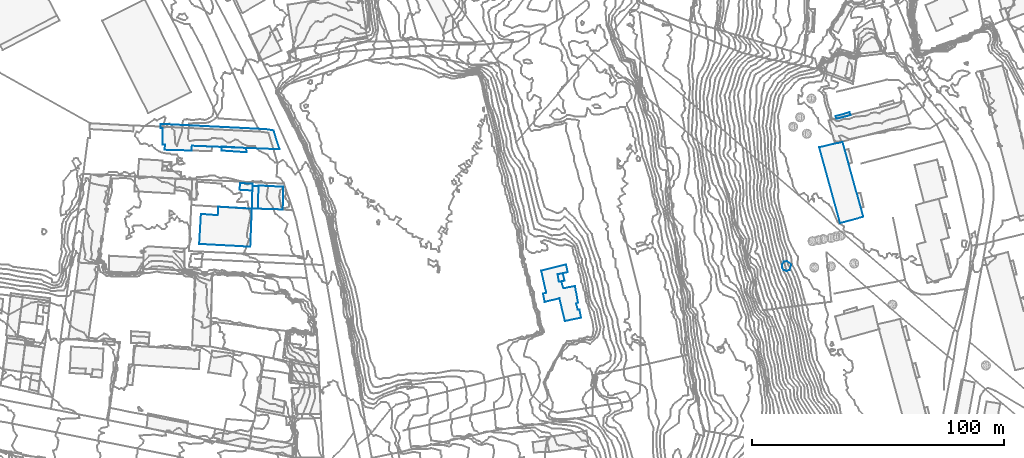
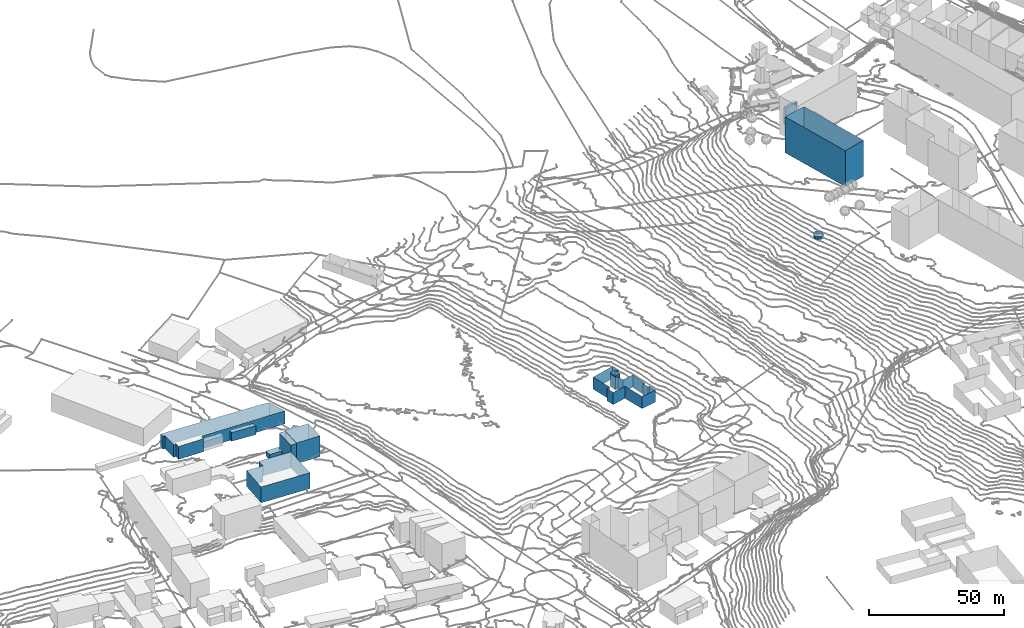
# Not in any storey, part 65 of 419: 11 walls.
"""IFC2X3 model written with IfcOpenShell, lengths in metres."""

from ifc_helpers import new_model, si_unit, frame, origin_with_axes, place, context, subcontext, project, faceted_brep, element, save


model = new_model("IFC2X3")

# Units and contexts
model_context = context("Model", 3, precision=1e-05, world=origin_with_axes())
body_context = subcontext(model_context, "Body", "Model", "MODEL_VIEW")
ifc_project = project(units=[si_unit("AREAUNIT", "SQUARE_METRE"), si_unit("LENGTHUNIT", "METRE")], contexts=[model_context])

# Walls
wall_1_placement = place(None, frame((592.7920204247, 944.9976909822, 50.1320001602), z_axis=(0.0, 0.0, 1.0), x_axis=(1.0, 0.0, 0.0)))
element("IfcWall", 1, at=wall_1_placement, Name="Mur 0", context=body_context, shape_type="Brep", body=[
    faceted_brep([(2.7000000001, 8.9000000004, 9.3679998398), (2.4, 0.0, 9.3679998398), (2.7000000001, 8.9000000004, 0.0), (2.4, 0.0, 0.0), (0.3, 9.1000000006, 9.3679998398), (0.3, 9.1000000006, 0.0), (0.0, 0.0, 9.3679998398), (0.0, 0.0, 0.0)], [[[0, 1, 2]], [[2, 1, 3]], [[4, 0, 5]], [[5, 0, 2]], [[1, 6, 3]], [[3, 6, 7]], [[6, 4, 7]], [[7, 4, 5]]]),
])
wall_2_placement = place(None, frame((818.1920204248, 969.3976909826, 98.0246006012), z_axis=(0.0, 0.0, 1.0), x_axis=(1.0, 0.0, 0.0)))
element("IfcWall", 2, at=wall_2_placement, Name="Mur 0", context=body_context, shape_type="Brep", body=[
    faceted_brep([(0.0, 0.0, 16.2753993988), (6.3, 1.5, 16.2753993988), (0.0, 0.0, 0.0), (6.3, 1.5, 0.0), (8.3, -30.0999999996, 16.2753993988), (8.3, -30.0999999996, 0.0), (17.5, -27.5999999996, 16.2753993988), (17.5, -27.5999999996, 0.0), (9.3, 2.0999999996, 16.2753993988), (9.3, 2.0999999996, 0.0)], [[[0, 1, 2]], [[2, 1, 3]], [[4, 0, 5]], [[5, 0, 2]], [[6, 4, 7]], [[7, 4, 5]], [[1, 8, 3]], [[3, 8, 9]], [[8, 6, 9]], [[9, 6, 7]]]),
])
wall_3_placement = place(None, frame((595.1920204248, 944.9976909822, 50.2927998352), z_axis=(0.0, 0.0, 1.0), x_axis=(1.0, 0.0, 0.0)))
element("IfcWall", 3, at=wall_3_placement, Name="Mur 0", context=body_context, shape_type="Brep", body=[
    faceted_brep([(10.1, 8.7000000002, 9.4072001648), (9.9, -0.2999999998, 9.4072001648), (10.1, 8.7000000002, 0.0), (9.9, -0.2999999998, 0.0), (0.3, 9.2000000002, 9.4072001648), (0.3, 9.2000000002, 0.0), (0.0, 0.0, 9.4072001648), (0.0, 0.0, 0.0)], [[[0, 1, 2]], [[2, 1, 3]], [[4, 0, 5]], [[5, 0, 2]], [[1, 6, 3]], [[3, 6, 7]], [[6, 4, 7]], [[7, 4, 5]]]),
])
wall_4_placement = place(None, frame((580.7920204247, 968.0976909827, 51.5150000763), z_axis=(0.0, 0.0, 1.0), x_axis=(1.0, 0.0, 0.0)))
element("IfcWall", 4, at=wall_4_placement, Name="Mur 0", context=body_context, shape_type="Brep", body=[
    faceted_brep([(0.0, 0.0, 3.9849999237), (0.0, 1.5999999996, 3.9849999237), (0.0, 0.0, 0.0), (0.0, 1.5999999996, 0.0), (9.9, -0.7000000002, 3.9849999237), (9.9, -0.7000000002, 0.0), (9.8, 1.0, 3.9849999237), (9.8, 1.0, 0.0)], [[[0, 1, 2]], [[2, 1, 3]], [[4, 0, 5]], [[5, 0, 2]], [[1, 6, 3]], [[3, 6, 7]], [[6, 4, 7]], [[7, 4, 5]]]),
])
wall_5_placement = place(None, frame((824.6920204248, 981.7976909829, 101.1435016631), z_axis=(0.0, 0.0, 1.0), x_axis=(1.0, 0.0, 0.0)))
element("IfcWall", 5, at=wall_5_placement, Name="Mur 0", context=body_context, shape_type="Brep", body=[
    faceted_brep([(5.9, 0.3999999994, 7.8564983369), (0.4, -1.1000000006, 7.8564983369), (5.9, 0.3999999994, 0.0), (0.4, -1.1000000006, 0.0), (5.6, 1.5, 7.8564983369), (5.6, 1.5, 0.0), (0.0, 0.0, 7.8564983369), (0.0, 0.0, 0.0)], [[[0, 1, 2]], [[2, 1, 3]], [[4, 0, 5]], [[5, 0, 2]], [[1, 6, 3]], [[3, 6, 7]], [[6, 4, 7]], [[7, 4, 5]]]),
])
wall_6_placement = place(None, frame((803.3920204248, 921.6976909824, 93.1024017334), z_axis=(0.0, 0.0, 1.0), x_axis=(1.0, 0.0, 0.0)))
element("IfcWall", 6, at=wall_6_placement, Name="Mur 0", context=body_context, shape_type="Brep", body=[
    faceted_brep([(3.7, 1.1000000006, 1.5975982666), (3.0, -1.0, 1.5975982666), (3.7, 1.1000000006, 0.0), (3.0, -1.0, 0.0), (1.8999999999, 2.5, 1.5975982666), (1.8999999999, 2.5, 0.0), (0.7, 2.2000000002, 1.5975982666), (0.7, 2.2000000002, 0.0), (0.0, 1.2000000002, 1.5975982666), (0.0, 1.2000000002, 0.0), (0.0, 0.0, 1.5975982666), (0.0, 0.0, 0.0), (0.7, -1.0, 1.5975982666), (0.7, -1.0, 0.0), (1.7999999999, -1.3999999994, 1.5975982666), (1.7999999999, -1.3999999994, 0.0)], [[[0, 1, 2]], [[2, 1, 3]], [[4, 0, 5]], [[5, 0, 2]], [[6, 4, 7]], [[7, 4, 5]], [[8, 6, 9]], [[9, 6, 7]], [[10, 8, 11]], [[11, 8, 9]], [[12, 10, 13]], [[13, 10, 11]], [[1, 14, 3]], [[3, 14, 15]], [[14, 12, 15]], [[15, 12, 13]]]),
])
wall_7_placement = place(None, frame((587.9920204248, 952.4976909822, 50.0516007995), z_axis=(0.0, 0.0, 1.0), x_axis=(1.0, 0.0, 0.0)))
element("IfcWall", 7, at=wall_7_placement, Name="Mur 0", context=body_context, shape_type="Brep", body=[
    faceted_brep([(5.2, 2.4000000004, 2.4483992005), (5.1, 1.6000000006, 2.4483992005), (5.2, 2.4000000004, 0.0), (5.1, 1.6000000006, 0.0), (0.1, 2.7000000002, 2.4483992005), (0.1, 2.7000000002, 0.0), (0.0, 0.0, 2.4483992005), (0.0, 0.0, 0.0), (5.1, -0.2999999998, 2.4483992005), (5.1, -0.2999999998, 0.0)], [[[0, 1, 2]], [[2, 1, 3]], [[4, 0, 5]], [[5, 0, 2]], [[6, 4, 7]], [[7, 4, 5]], [[1, 8, 3]], [[3, 8, 9]], [[8, 6, 9]], [[9, 6, 7]]]),
])
wall_8_placement = place(None, frame((707.7920204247, 920.3976909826, 59.5370002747), z_axis=(0.0, 0.0, 1.0), x_axis=(1.0, 0.0, 0.0)))
element("IfcWall", 8, at=wall_8_placement, Name="Mur 0", context=body_context, shape_type="Brep", body=[
    faceted_brep([(0.0, 0.0, 5.4629997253), (9.8, 2.5, 5.4629997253), (0.0, 0.0, 0.0), (9.8, 2.5, 0.0), (2.0, -8.7999999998, 5.4629997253), (2.0, -8.7999999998, 0.0), (0.7000000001, -9.0999999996, 5.4629997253), (0.7000000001, -9.0999999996, 0.0), (1.4, -12.4000000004, 5.4629997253), (1.4, -12.4000000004, 0.0), (7.2000000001, -11.0, 5.4629997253), (7.2000000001, -11.0, 0.0), (9.4, -20.0, 5.4629997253), (9.4, -20.0, 0.0), (15.8, -18.7000000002, 5.4629997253), (15.8, -18.7000000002, 0.0), (15.2000000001, -15.5, 5.4629997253), (15.2000000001, -15.5, 0.0), (14.5, -15.5, 5.4629997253), (14.5, -15.5, 0.0), (13.8, -13.0, 5.4629997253), (13.8, -13.0, 0.0), (14.6000000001, -12.7000000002, 5.4629997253), (14.6000000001, -12.7000000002, 0.0), (13.4, -6.0999999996, 5.4629997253), (13.4, -6.0999999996, 0.0), (8.8, -7.0, 5.4629997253), (8.8, -7.0, 0.0), (8.0, -4.4000000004, 5.4629997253), (8.0, -4.4000000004, 0.0), (7.0, -4.4000000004, 5.4629997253), (7.0, -4.4000000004, 0.0), (6.5, -1.4000000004, 5.4629997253), (6.5, -1.4000000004, 0.0), (10.5, -0.5999999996, 5.4629997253), (10.5, -0.5999999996, 0.0)], [[[0, 1, 2]], [[2, 1, 3]], [[4, 0, 5]], [[5, 0, 2]], [[6, 4, 7]], [[7, 4, 5]], [[8, 6, 9]], [[9, 6, 7]], [[10, 8, 11]], [[11, 8, 9]], [[12, 10, 13]], [[13, 10, 11]], [[14, 12, 15]], [[15, 12, 13]], [[16, 14, 17]], [[17, 14, 15]], [[18, 16, 19]], [[19, 16, 17]], [[20, 18, 21]], [[21, 18, 19]], [[22, 20, 23]], [[23, 20, 21]], [[24, 22, 25]], [[25, 22, 23]], [[26, 24, 27]], [[27, 24, 25]], [[28, 26, 29]], [[29, 26, 27]], [[30, 28, 31]], [[31, 28, 29]], [[32, 30, 33]], [[33, 30, 31]], [[1, 34, 3]], [[3, 34, 35]], [[34, 32, 35]], [[35, 32, 33]]]),
])
wall_9_placement = place(None, frame((714.2920204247, 918.9976909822, 59.7019989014), z_axis=(0.0, 0.0, 1.0), x_axis=(1.0, 0.0, 0.0)))
element("IfcWall", 9, at=wall_9_placement, Name="Mur 0", context=body_context, shape_type="Brep", body=[
    faceted_brep([(0.0, 0.0, 5.9980010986), (2.1000000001, 0.3000000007, 5.9980010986), (0.0, 0.0, 0.0), (2.1000000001, 0.3000000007, 0.0), (0.5, -3.0, 5.9980010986), (0.5, -3.0, 0.0), (2.7000000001, -2.5999999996, 5.9980010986), (2.7000000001, -2.5999999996, 0.0)], [[[0, 1, 2]], [[2, 1, 3]], [[4, 0, 5]], [[5, 0, 2]], [[1, 6, 3]], [[3, 6, 7]], [[6, 4, 7]], [[7, 4, 5]]]),
])
wall_10_placement = place(None, frame((556.4920204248, 976.9976909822, 51.0254006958), z_axis=(0.0, 0.0, 1.0), x_axis=(1.0, 0.0, 0.0)))
element("IfcWall", 10, at=wall_10_placement, Name="Mur 0", context=body_context, shape_type="Brep", body=[
    faceted_brep([(0.0, 1.7000000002, 5.8745993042), (41.7, -0.3999999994, 5.8745993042), (0.0, 1.7000000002, 0.0), (41.7, -0.3999999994, 0.0), (0.0, 0.0, 5.8745993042), (0.0, 0.0, 0.0), (0.9, 0.0, 5.8745993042), (0.9, 0.0, 0.0), (0.7999999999, -6.5999999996, 5.8745993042), (0.7999999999, -6.5999999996, 0.0), (1.7999999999, -6.5, 5.8745993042), (1.7999999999, -6.5, 0.0), (1.7, -8.5999999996, 5.8745993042), (1.7, -8.5999999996, 0.0), (12.2999999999, -8.8999999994, 5.8745993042), (12.2999999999, -8.8999999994, 0.0), (12.5, -7.0, 5.8745993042), (12.5, -7.0, 0.0), (47.2999999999, -8.3999999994, 5.8745993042), (47.2999999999, -8.3999999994, 0.0), (45.0, -0.8999999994, 5.8745993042), (45.0, -0.8999999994, 0.0)], [[[0, 1, 2]], [[2, 1, 3]], [[4, 0, 5]], [[5, 0, 2]], [[6, 4, 7]], [[7, 4, 5]], [[8, 6, 9]], [[9, 6, 7]], [[10, 8, 11]], [[11, 8, 9]], [[12, 10, 13]], [[13, 10, 11]], [[14, 12, 15]], [[15, 12, 13]], [[16, 14, 17]], [[17, 14, 15]], [[18, 16, 19]], [[19, 16, 17]], [[1, 20, 3]], [[3, 20, 21]], [[20, 18, 21]], [[21, 18, 19]]]),
])
wall_11_placement = place(None, frame((571.8920204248, 930.9976909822, 49.2930014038), z_axis=(0.0, 0.0, 1.0), x_axis=(1.0, 0.0, 0.0)))
element("IfcWall", 11, at=wall_11_placement, Name="Mur 0", context=body_context, shape_type="Brep", body=[
    faceted_brep([(7.6, 14.8000000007, 7.2069985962), (20.8999999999, 14.0, 7.2069985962), (7.6, 14.8000000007, 0.0), (20.8999999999, 14.0, 0.0), (7.3999999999, 11.4000000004, 7.2069985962), (7.3999999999, 11.4000000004, 0.0), (0.7, 11.9000000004, 7.2069985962), (0.7, 11.9000000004, 0.0), (0.0, 0.0, 7.2069985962), (0.0, 0.0, 0.0), (20.2999999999, -1.0999999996, 7.2069985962), (20.2999999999, -1.0999999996, 0.0)], [[[0, 1, 2]], [[2, 1, 3]], [[4, 0, 5]], [[5, 0, 2]], [[6, 4, 7]], [[7, 4, 5]], [[8, 6, 9]], [[9, 6, 7]], [[1, 10, 3]], [[3, 10, 11]], [[10, 8, 11]], [[11, 8, 9]]]),
])

save(model, "model.ifc")
